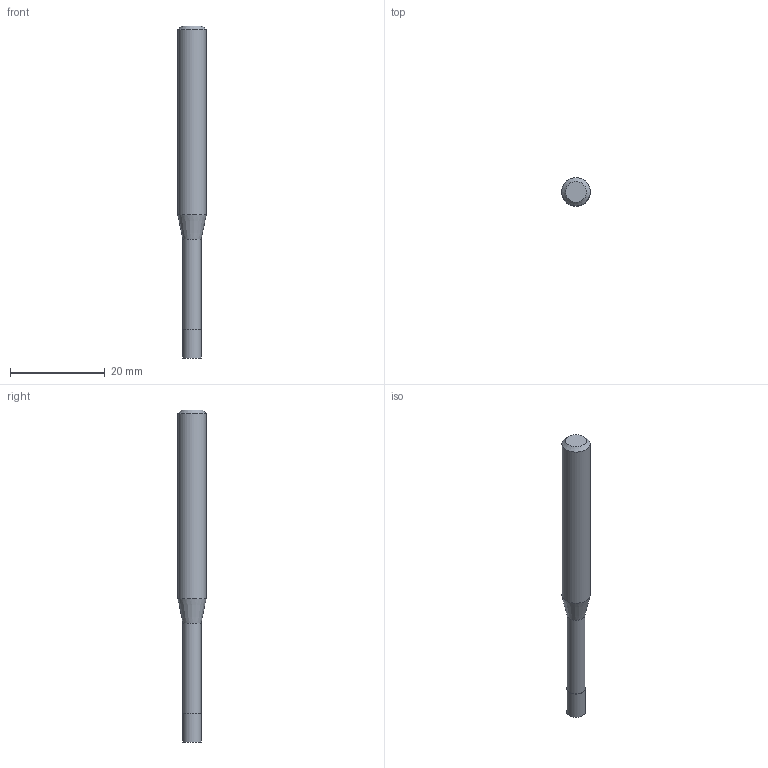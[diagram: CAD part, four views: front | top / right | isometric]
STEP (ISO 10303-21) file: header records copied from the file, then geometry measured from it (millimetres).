
FILE_DESCRIPTION((''),'2;1');
FILE_NAME('C:\Users\nsx150\AppData\Local\Temp\Mastercam 2021\3SYKECWX22\TEMP.step','2021-04-22T09:39:46',(''),(''),'STEP Write','Mastercam 2021 ... CNC Software, Inc.','');
FILE_SCHEMA(('AUTOMOTIVE_DESIGN'));
Length unit declared in the file: millimetre
Products named in the file (1): None
Bounding box: 6 x 6 x 70 mm (x, y, z)
Volume: 1510.6 mm3; surface area: 1189.4 mm2
Topology: 2 solids, 2 shells, 9 faces, 12 edges, 7 vertices
Faces by surface type: plane 4, cylinder 3, cone 2
Full cylindrical faces by diameter (mm): 3.8 x1, 4 x1, 6 x1
Entity records: 211 total; most frequent: DIRECTION 36, CARTESIAN_POINT 25, AXIS2_PLACEMENT_3D 18, ORIENTED_EDGE 14, EDGE_LOOP 14, STYLED_ITEM 12, ADVANCED_FACE 9, FACE_BOUND 8
